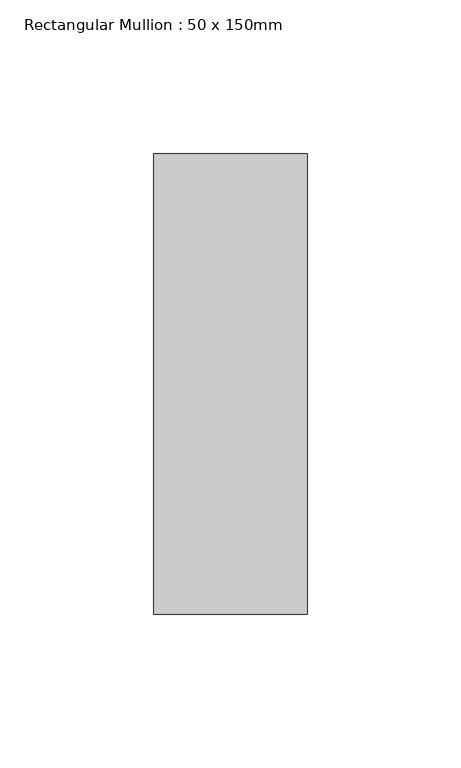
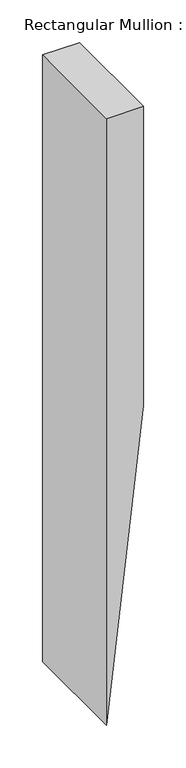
"""IFC4 building model written with IfcOpenShell, lengths in millimetres: member geometry, Rectangular Mullion : 50 x 150mm."""

import ifcopenshell
import ifcopenshell.guid

model = None  # the IFC model being written
_history = None  # IfcOwnerHistory: only IFC2X3 demands one
_inside = {}  # id of a spatial element -> (the spatial element, [elements in it])
_under = {}  # id of a project, library or spatial element -> (it, [spatial elements below it])
_declared = {}  # id of a project -> (the project, [libraries it declares])
_typed = {}  # id of a type object -> (the type object, [elements of that type])
_made_of = {}  # id of a material, layer set ... -> (it, [elements and type objects made of it])


def new_model(schema):
    """Start an empty IFC model of exactly this schema.

    Asked for "IFC4X3", IfcOpenShell would pick the latest addendum, in which some entities
    have other attributes; the version numbers below select the first issue.
    IFC2X3 requires an IfcOwnerHistory on every rooted entity: one is made here for all.
    """
    global model, _history
    if schema == "IFC4X3":
        model = ifcopenshell.file(schema_version=(4, 3, 0, 0))
    else:
        model = ifcopenshell.file(schema=schema)
    _inside.clear()
    _under.clear()
    _declared.clear()
    _typed.clear()
    _made_of.clear()
    _history = None
    if model.schema == "IFC2X3":
        org = make("IfcOrganization", Name="unknown")
        user = make(
            "IfcPersonAndOrganization",
            ThePerson=make("IfcPerson", FamilyName="unknown"),
            TheOrganization=org,
        )
        app = make(
            "IfcApplication",
            ApplicationDeveloper=org,
            Version="unknown",
            ApplicationFullName="unknown",
            ApplicationIdentifier="unknown",
        )
        _history = make(
            "IfcOwnerHistory",
            OwningUser=user,
            OwningApplication=app,
            ChangeAction="ADDED",
            CreationDate=0,
        )
    return model


def make(cls, **values):
    """One entity of the class cls with the attributes given. An attribute that is None is left unset."""
    return model.create_entity(
        cls, **{name: value for name, value in values.items() if value is not None}
    )


def rooted(cls, **values):
    """An entity with a GlobalId (a new one), such as an element, a storey or a relation."""
    return make(cls, GlobalId=ifcopenshell.guid.new(), OwnerHistory=_history, **values)


def si_unit(unit_type, name, prefix=None):
    """IfcSIUnit, for example si_unit("LENGTHUNIT", "METRE", prefix="MILLI")."""
    return make("IfcSIUnit", UnitType=unit_type, Prefix=prefix, Name=name)


def assignment(units):
    """IfcUnitAssignment: the units of a project."""
    return None if units is None else make("IfcUnitAssignment", Units=units)


def point(xyz):
    """IfcCartesianPoint."""
    return None if xyz is None else make("IfcCartesianPoint", Coordinates=xyz)


def direction(xyz):
    """IfcDirection."""
    return None if xyz is None else make("IfcDirection", DirectionRatios=xyz)


def frame(location, z_axis=None, x_axis=None):
    """IfcAxis2Placement3D, a coordinate frame: its origin and axes. An axis left out is left unset."""
    return make(
        "IfcAxis2Placement3D",
        Location=point(location),
        Axis=direction(z_axis),
        RefDirection=direction(x_axis),
    )


def origin():
    """The frame at (0, 0, 0) with its axes left unset."""
    return frame((0.0, 0.0, 0.0))


def place(relative_to, where):
    """IfcLocalPlacement: puts the frame where relative to a parent placement (None: the world)."""
    return make(
        "IfcLocalPlacement", PlacementRelTo=relative_to, RelativePlacement=where
    )


def context(
    kind, dimensions, precision=None, world=None, true_north=None, identifier=None
):
    """IfcGeometricRepresentationContext, for example the 3D "Model" context."""
    return make(
        "IfcGeometricRepresentationContext",
        ContextIdentifier=identifier,
        ContextType=kind,
        CoordinateSpaceDimension=dimensions,
        Precision=precision,
        WorldCoordinateSystem=world,
        TrueNorth=true_north,
    )


def project(units=None, contexts=None):
    """IfcProject with its units and contexts."""
    return rooted(
        "IfcProject",
        Name="project",
        RepresentationContexts=contexts,
        UnitsInContext=assignment(units),
    )


def spatial(cls, under=None, at=None, **own):
    """A site, building, storey or space (cls), placed at a placement, below another one or the project."""
    s = rooted(cls, ObjectPlacement=at, **own)
    if under is not None:
        _under.setdefault(under.id(), (under, []))[1].append(s)
    return s


def polyline(points):
    """IfcPolyline through the points."""
    return make("IfcPolyline", Points=[point(p) for p in points])


def outline(outer, holes=None, kind="AREA"):
    """IfcArbitraryClosedProfileDef: a profile drawn as a closed curve; with holes, ...WithVoids."""
    if holes is None:
        return make("IfcArbitraryClosedProfileDef", ProfileType=kind, OuterCurve=outer)
    return make(
        "IfcArbitraryProfileDefWithVoids",
        ProfileType=kind,
        OuterCurve=outer,
        InnerCurves=holes,
    )


def extrude(swept, where, along, depth):
    """IfcExtrudedAreaSolid: the profile swept, set in the frame where, extruded along a direction by depth."""
    return make(
        "IfcExtrudedAreaSolid",
        SweptArea=swept,
        Position=where,
        ExtrudedDirection=direction(along),
        Depth=depth,
    )


def shape(context_of_items, identifier, shape_type, items):
    """IfcShapeRepresentation: the items that make up one representation, for example the "Body"."""
    return make(
        "IfcShapeRepresentation",
        ContextOfItems=context_of_items,
        RepresentationIdentifier=identifier,
        RepresentationType=shape_type,
        Items=items,
    )


def source(mapping_origin, context_of_items, identifier, shape_type, items):
    """IfcRepresentationMap: a shape defined once, which mapped items show again and again."""
    return make(
        "IfcRepresentationMap",
        MappingOrigin=mapping_origin,
        MappedRepresentation=shape(context_of_items, identifier, shape_type, items),
    )


def transform(
    local_origin,
    x_axis=None,
    y_axis=None,
    z_axis=None,
    scale=None,
    scale2=None,
    scale3=None,
    uniform=True,
):
    """IfcCartesianTransformationOperator3D, or its non-uniform kind. x_axis, y_axis, z_axis: its Axis1, 2, 3."""
    if uniform:
        return make(
            "IfcCartesianTransformationOperator3D",
            Axis1=direction(x_axis),
            Axis2=direction(y_axis),
            LocalOrigin=point(local_origin),
            Scale=scale,
            Axis3=direction(z_axis),
        )
    return make(
        "IfcCartesianTransformationOperator3DnonUniform",
        Axis1=direction(x_axis),
        Axis2=direction(y_axis),
        LocalOrigin=point(local_origin),
        Scale=scale,
        Axis3=direction(z_axis),
        Scale2=scale2,
        Scale3=scale3,
    )


def mapped(mapping_source, mapping_target):
    """IfcMappedItem: shows the shape of a source again, moved by a transform."""
    return make(
        "IfcMappedItem", MappingSource=mapping_source, MappingTarget=mapping_target
    )


def made_of(thing, what):
    """Note that an element or type object is made of a material, layer set ...; save() writes the relation."""
    if what is not None:
        _made_of.setdefault(what.id(), (what, []))[1].append(thing)
    return thing


def element(
    cls,
    number,
    at=None,
    inside=None,
    cuts=None,
    type_object=None,
    material=None,
    context=None,
    identifier="Body",
    shape_type=None,
    held_by="IfcProductDefinitionShape",
    body=None,
    shapes=None,
    **own,
):
    """One element of the class cls, such as IfcWall. Its Tag is "e" and its number.

    at: its placement. inside: the storey or other place that contains it. cuts: it is an
    opening in that element (IfcRelVoidsElement). A single representation is given by context,
    identifier, shape_type and body (its items); several are given by shapes. held_by: the class
    of the entity that holds the representations. save() writes the other relations.
    """
    e = rooted(cls, Tag="e%d" % number, ObjectPlacement=at, **own)
    if body is not None:
        shapes = [shape(context, identifier, shape_type, body)]
    if shapes is not None:
        e.Representation = make(held_by, Representations=shapes)
    if inside is not None:
        _inside.setdefault(inside.id(), (inside, []))[1].append(e)
    if cuts is not None:
        rooted(
            "IfcRelVoidsElement", RelatingBuildingElement=cuts, RelatedOpeningElement=e
        )
    if type_object is not None:
        _typed.setdefault(type_object.id(), (type_object, []))[1].append(e)
    return made_of(e, material)


def aggregate(whole, parts):
    """IfcRelAggregates: a whole, such as a stair, and the parts it consists of."""
    return rooted("IfcRelAggregates", RelatingObject=whole, RelatedObjects=parts)


def save(model, path):
    """Write the relations noted so far, then the file.

    IfcRelAggregates (storeys below a building ...), IfcRelContainedInSpatialStructure (elements
    in a storey), IfcRelDefinesByType, IfcRelAssociatesMaterial and IfcRelDeclares: one each for
    every whole, place, type object, material and project.
    """
    for whole, parts in _under.values():
        aggregate(whole, parts)
    for where, things in _inside.values():
        rooted(
            "IfcRelContainedInSpatialStructure",
            RelatedElements=things,
            RelatingStructure=where,
        )
    for kind, things in _typed.values():
        rooted("IfcRelDefinesByType", RelatedObjects=things, RelatingType=kind)
    for what, things in _made_of.values():
        rooted("IfcRelAssociatesMaterial", RelatedObjects=things, RelatingMaterial=what)
    for by, libraries in _declared.values():
        rooted("IfcRelDeclares", RelatingContext=by, RelatedDefinitions=libraries)
    model.write(path)


def rectangular_mullion_50_x_150mm_6f160d5c(model_context):
    return source(origin(), model_context, "Body", "SweptSolid", [
        extrude(outline(polyline([(0.0, 25.0), (0.0, -25.0), (-867.9334005, -25.0), (-427.6892693, 25.0), (0.0, 25.0)])), frame((0.0, -75.0, 0.0), z_axis=(0.0, 1.0, 0.0), x_axis=(0.0, 0.0, 1.0)), (0.0, 0.0, 1.0), 150.0),
    ])


if __name__ == "__main__":
    model = new_model("IFC4")
    model_context = context("Model", 3, world=origin())
    ifc_project = project(units=[si_unit("LENGTHUNIT", "METRE", prefix="MILLI")], contexts=[model_context])
    site = spatial("IfcSite", under=ifc_project)
    building = spatial("IfcBuilding", under=site)
    placement = place(None, origin())
    rectangular_mullion_50_x_150mm_shape = rectangular_mullion_50_x_150mm_6f160d5c(model_context)
    element("IfcMember", 1, ObjectType="Rectangular Mullion : 50 x 150mm", at=placement, inside=building, context=model_context, shape_type="MappedRepresentation", body=[
        mapped(rectangular_mullion_50_x_150mm_shape, transform((0.0, 0.0, 0.0), x_axis=(1.0, 0.0, 0.0), y_axis=(0.0, 1.0, 0.0), z_axis=(0.0, 0.0, 1.0))),
    ])
    save(model, "model.ifc")
